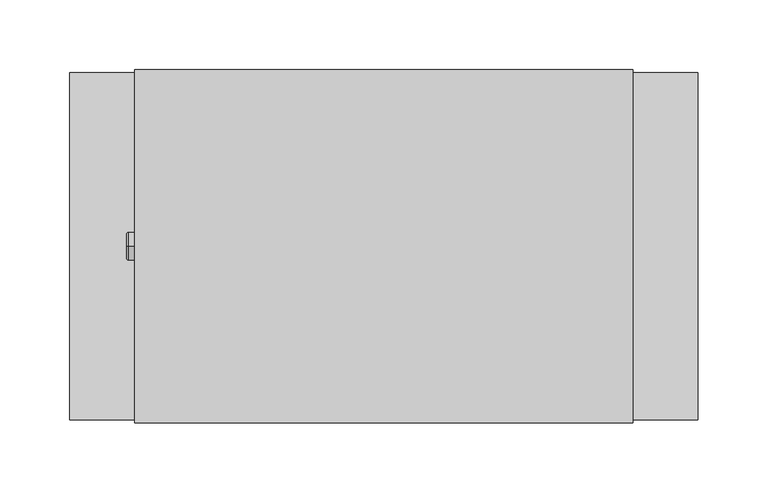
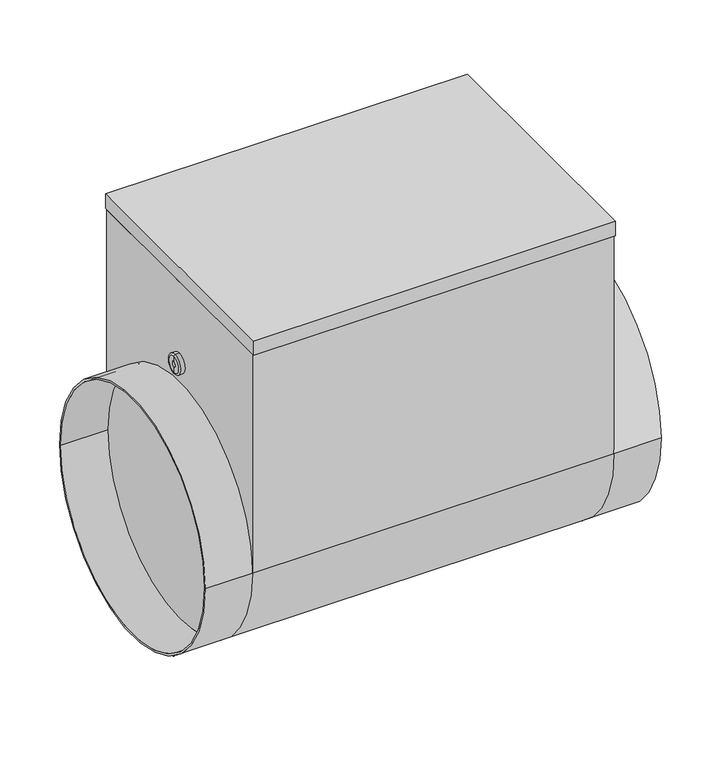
"""IFC4 building model written with IfcOpenShell, lengths in millimetres: proxy geometry, СВ_ВоздухонагревательЭлектрический_КанальныйКруглый_DN100-315_SKH-E : SKH-E-250/15."""

from ifc_helpers import new_model, si_unit, point, frame, origin, place, context, project, spatial, polyline, circle_curve, ellipse_curve, trimmed, outline, extrude, source, transform, mapped, element, save
from ifc_brep_helpers import plane_surface, cylinder_surface, revolved_surface, advanced_brep


def mechanical_equipment_e823907d(model_context):
    return source(origin(), model_context, "Body", "SolidModel", [
        extrude(outline(polyline([(178.5, -126.5), (-178.5, -126.5), (-178.5, 126.5), (178.5, 126.5), (178.5, -126.5)])), frame((0.0, 0.0, 228.5), z_axis=(0.0, 0.0, 1.0), x_axis=(1.0, 0.0, 0.0)), (0.0, 0.0, 1.0), 15.0),
        advanced_brep(
        [(-225.0, -124.5, 0.0), (-225.0, 124.5, 0.0), (-225.0, -122.5, 0.0), (-225.0, 122.5, 0.0), (-178.5, 122.5, 0.0), (-178.5, -122.5, 0.0), (-178.5, 124.5, 0.0), (-178.5, -124.5, 0.0), (178.5, -122.5, 0.0), (178.5, 122.5, 0.0), (178.5, -124.5, 228.5), (178.5, -124.5, 0.0), (178.5, 124.5, 0.0), (178.5, 124.5, 228.5), (-178.5, -124.5, 228.5), (-178.5, 124.5, 228.5), (225.0, -124.5, 0.0), (225.0, 124.5, 0.0), (225.0, -122.5, 0.0), (225.0, 122.5, 0.0)],
        [
            (0, 1, circle_curve(frame((-225.0, 0.0, 0.0), z_axis=(-1.0, 0.0, 0.0), x_axis=(0.0, 1.0, 0.0)), 124.5)),
            (1, 0, circle_curve(frame((-225.0, 0.0, 0.0), z_axis=(-1.0, 0.0, 0.0), x_axis=(0.0, 1.0, 0.0)), 124.5)),
            (2, 3, circle_curve(frame((-225.0, 0.0, 0.0), z_axis=(1.0, 0.0, 0.0), x_axis=(0.0, 1.0, 0.0)), 122.5)),
            (3, 2, circle_curve(frame((-225.0, 0.0, 0.0), z_axis=(1.0, 0.0, 0.0), x_axis=(0.0, 1.0, 0.0)), 122.5)),
            (3, 4),
            (4, 5, circle_curve(frame((-178.5, 0.0, 0.0), z_axis=(1.0, 0.0, 0.0), x_axis=(0.0, 1.0, 0.0)), 122.5)),
            (5, 2),
            (5, 4, circle_curve(frame((-178.5, 0.0, 0.0), z_axis=(1.0, 0.0, 0.0), x_axis=(0.0, 1.0, 0.0)), 122.5)),
            (1, 6),
            (6, 7, circle_curve(frame((-178.5, 0.0, 0.0), z_axis=(-1.0, 0.0, 0.0), x_axis=(0.0, 1.0, 0.0)), 124.5)),
            (7, 0),
            (7, 6, circle_curve(frame((-178.5, 0.0, 0.0), z_axis=(-1.0, 0.0, 0.0), x_axis=(0.0, 1.0, 0.0)), 124.5)),
            (8, 9, circle_curve(frame((178.5, 0.0, 0.0), z_axis=(1.0, 0.0, 0.0), x_axis=(0.0, 1.0, 0.0)), 122.5)),
            (9, 8, circle_curve(frame((178.5, 0.0, 0.0), z_axis=(1.0, 0.0, 0.0), x_axis=(0.0, 1.0, 0.0)), 122.5)),
            (10, 11),
            (11, 12, circle_curve(frame((178.5, 0.0, 0.0), z_axis=(-1.0, 0.0, 0.0), x_axis=(0.0, 1.0, 0.0)), 124.5)),
            (12, 13),
            (13, 10),
            (7, 14),
            (14, 15),
            (15, 6),
            (6, 12),
            (12, 11, circle_curve(frame((178.5, 0.0, 0.0), z_axis=(-1.0, 0.0, 0.0), x_axis=(0.0, 1.0, 0.0)), 124.5)),
            (11, 7),
            (16, 17, circle_curve(frame((225.0, 0.0, 0.0), z_axis=(1.0, 0.0, 0.0), x_axis=(0.0, 1.0, 0.0)), 124.5)),
            (17, 16, circle_curve(frame((225.0, 0.0, 0.0), z_axis=(1.0, 0.0, 0.0), x_axis=(0.0, 1.0, 0.0)), 124.5)),
            (18, 19, circle_curve(frame((225.0, 0.0, 0.0), z_axis=(-1.0, 0.0, 0.0), x_axis=(0.0, 1.0, 0.0)), 122.5)),
            (19, 18, circle_curve(frame((225.0, 0.0, 0.0), z_axis=(-1.0, 0.0, 0.0), x_axis=(0.0, 1.0, 0.0)), 122.5)),
            (18, 8),
            (9, 19),
            (16, 11),
            (12, 17),
            (10, 14),
            (15, 13),
        ],
        [
            plane_surface(frame((-225.0, 122.5, 0.0), z_axis=(-1.0, 0.0, 0.0), x_axis=(0.0, 0.0, 1.0))),
            revolved_surface(polyline([(-225.0, 122.5, 0.0), (-178.5, 122.5, 0.0)]), (-225.0, 0.0, 0.0), (-1.0, 0.0, 0.0)),
            cylinder_surface(frame((0.0, 0.0, 0.0), z_axis=(1.0, 0.0, 0.0), x_axis=(0.0, 1.0, 0.0)), 124.5),
            plane_surface(frame((178.5, 124.5, 0.0), z_axis=(1.0, 0.0, 0.0), x_axis=(0.0, -1.0, 0.0))),
            plane_surface(frame((-178.5, 124.5, 0.0), z_axis=(-1.0, 0.0, 0.0), x_axis=(0.0, 1.0, 0.0))),
            cylinder_surface(frame((-178.5, 0.0, 0.0), z_axis=(1.0, 0.0, 0.0), x_axis=(0.0, 1.0, 0.0)), 124.5),
            plane_surface(frame((225.0, 122.5, 0.0), z_axis=(1.0, 0.0, 0.0), x_axis=(0.0, 0.0, -1.0))),
            revolved_surface(polyline([(178.5, 122.5, 0.0), (225.0, 122.5, 0.0)]), (178.5, 0.0, 0.0), (-1.0, 0.0, 0.0)),
            plane_surface(frame((-178.5, -124.5, 228.5), z_axis=(0.0, -1.0, 0.0), x_axis=(-1.0, 0.0, 0.0))),
            plane_surface(frame((-178.5, 124.5, 228.5), z_axis=(0.0, 1.0, 0.0), x_axis=(1.0, 0.0, 0.0))),
            plane_surface(frame((178.5, -124.5, 228.5), z_axis=(0.0, 0.0, 1.0), x_axis=(0.0, 1.0, 0.0))),
        ],
        [
            (0, [[1, 2], [3, 4]]),
            (1, [[-4, 5, 6, 7]]),
            (1, [[-3, -7, 8, -5]]),
            (2, [[-2, 9, 10, 11]]),
            (2, [[-1, -11, 12, -9]]),
            (3, [[13, 14]]),
            (3, [[15, 16, 17, 18]]),
            (4, [[-8, -6]]),
            (4, [[19, 20, 21, -12]]),
            (5, [[-10, 22, 23, 24]]),
            (6, [[25, 26], [27, 28]]),
            (7, [[-27, 29, -14, 30]]),
            (7, [[-28, -30, -13, -29]]),
            (2, [[-25, 31, -23, 32]]),
            (2, [[-26, -32, -16, -31]]),
            (8, [[33, -19, -24, -15]]),
            (9, [[-17, -22, -21, 34]]),
            (10, [[-33, -18, -34, -20]]),
        ],
    ),
        advanced_brep(
        [(-182.7840134, 0.0, 134.5), (-182.7840134, 0.0, 154.5), (-178.5, 0.0, 154.5), (-178.5, 0.0, 134.5), (-184.2459771, 0.0, 135.9619637), (-184.2459771, 0.0, 153.0380363), (-184.2459771, 0.0, 141.3948071), (-184.2459771, 0.0, 147.6051929), (-181.9138357, 0.0, 141.3948071), (-181.9138357, 0.0, 147.6051929), (-181.9138357, 0.0, 144.5), (-178.5, 0.0, 144.5)],
        [
            (0, 1, circle_curve(frame((-182.7840134, 0.0, 144.5), z_axis=(1.0, 0.0, 0.0), x_axis=(0.0, 0.0, 1.0)), 10.0)),
            (1, 2),
            (2, 3, circle_curve(frame((-178.5, 0.0, 144.5), z_axis=(-1.0, 0.0, 0.0), x_axis=(0.0, 0.0, 1.0)), 10.0)),
            (3, 0),
            (1, 0, circle_curve(frame((-182.7840134, 0.0, 144.5), z_axis=(1.0, 0.0, 0.0), x_axis=(0.0, 0.0, 1.0)), 10.0)),
            (3, 2, circle_curve(frame((-178.5, 0.0, 144.5), z_axis=(-1.0, 0.0, 0.0), x_axis=(0.0, 0.0, 1.0)), 10.0)),
            (4, 5, circle_curve(frame((-184.2459771, 0.0, 144.5), z_axis=(1.0, 0.0, 0.0), x_axis=(0.0, 0.0, 1.0)), 8.5380363)),
            (5, 1, circle_curve(frame((-182.7840134, 0.0, 153.0380363), z_axis=(0.0, 1.0, 0.0), x_axis=(1.0, 0.0, 0.0)), 1.4619637)),
            (0, 4, circle_curve(frame((-182.7840134, 0.0, 135.9619637), z_axis=(0.0, 1.0, 0.0), x_axis=(1.0, 0.0, 0.0)), 1.4619637)),
            (5, 4, circle_curve(frame((-184.2459771, 0.0, 144.5), z_axis=(1.0, 0.0, 0.0), x_axis=(0.0, 0.0, 1.0)), 8.5380363)),
            (6, 7, circle_curve(frame((-184.2459771, 0.0, 144.5), z_axis=(1.0, 0.0, 0.0), x_axis=(0.0, 0.0, 1.0)), 3.1051929)),
            (7, 5),
            (4, 6),
            (7, 6, circle_curve(frame((-184.2459771, 0.0, 144.5), z_axis=(1.0, 0.0, 0.0), x_axis=(0.0, 0.0, 1.0)), 3.1051929)),
            (8, 9, circle_curve(frame((-181.9138357, 0.0, 144.5), z_axis=(1.0, 0.0, 0.0), x_axis=(0.0, 0.0, 1.0)), 3.1051929)),
            (9, 7),
            (6, 8),
            (9, 8, circle_curve(frame((-181.9138357, 0.0, 144.5), z_axis=(1.0, 0.0, 0.0), x_axis=(0.0, 0.0, 1.0)), 3.1051929)),
            (10, 9),
            (8, 10),
            (2, 11),
            (11, 3),
        ],
        [
            cylinder_surface(frame((-214.1635229, 0.0, 144.5), z_axis=(-1.0, 0.0, 0.0), x_axis=(0.0, 0.0, 1.0)), 10.0),
            revolved_surface(trimmed(ellipse_curve(frame((-182.7840134, 0.0, 153.0380363), z_axis=(0.0, -1.0, 0.0), x_axis=(1.0, 0.0, 0.0)), 1.4619637, 1.4619637), [point((-182.7840134, 0.0, 154.5))], [point((-184.2459771, 0.0, 153.0380363))], True, "CARTESIAN"), (-214.1635229, 0.0, 144.5), (-1.0, 0.0, 0.0)),
            plane_surface(frame((-184.2459771, 0.0, 144.5), z_axis=(-1.0, 0.0, 0.0), x_axis=(0.0, 0.0, 1.0))),
            revolved_surface(polyline([(-184.2459771, 0.0, 147.6051929), (-181.9138357, 0.0, 147.6051929)]), (-214.1635229, 0.0, 144.5), (-1.0, 0.0, 0.0)),
            plane_surface(frame((-181.9138357, 0.0, 144.5), z_axis=(-1.0, 0.0, 0.0), x_axis=(0.0, 0.0, 1.0))),
            plane_surface(frame((-178.5, 0.0, 144.5), z_axis=(1.0, 0.0, 0.0), x_axis=(0.0, 0.0, 1.0))),
        ],
        [
            (0, [[1, 2, 3, 4]]),
            (0, [[5, -4, 6, -2]]),
            (1, [[7, 8, -1, 9]]),
            (1, [[10, -9, -5, -8]]),
            (2, [[11, 12, -7, 13]]),
            (2, [[14, -13, -10, -12]]),
            (3, [[15, 16, -11, 17]]),
            (3, [[18, -17, -14, -16]]),
            (4, [[19, -15, 20]]),
            (4, [[-20, -18, -19]]),
            (5, [[-3, 21, 22]]),
            (5, [[-6, -22, -21]]),
        ],
    ),
    ])


if __name__ == "__main__":
    model = new_model("IFC4")
    model_context = context("Model", 3, world=origin())
    ifc_project = project(units=[si_unit("LENGTHUNIT", "METRE", prefix="MILLI")], contexts=[model_context])
    site = spatial("IfcSite", under=ifc_project)
    building = spatial("IfcBuilding", under=site)
    placement = place(None, origin())
    mechanical_equipment_shape = mechanical_equipment_e823907d(model_context)
    element("IfcBuildingElementProxy", 1, Name="СВ_ВоздухонагревательЭлектрический_КанальныйКруглый_DN100-315_SKH-E : SKH-E-250/15", ObjectType="СВ_ВоздухонагревательЭлектрический_КанальныйКруглый_DN100-315_SKH-E : SKH-E-250/15", at=placement, inside=building, context=model_context, shape_type="MappedRepresentation", body=[
        mapped(mechanical_equipment_shape, transform((0.0, 0.0, 0.0), x_axis=(1.0, 0.0, 0.0), y_axis=(0.0, 1.0, 0.0), z_axis=(0.0, 0.0, 1.0))),
    ])
    save(model, "model.ifc")
